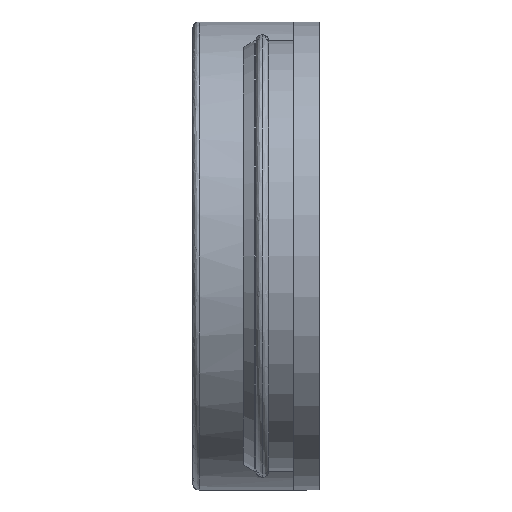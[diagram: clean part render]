
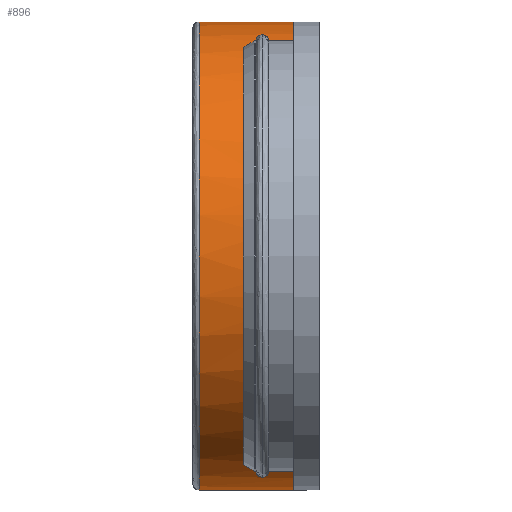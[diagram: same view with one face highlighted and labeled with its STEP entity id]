
A CAD part, left-side view. The second image highlights one B-rep face of the part: STEP entity #896.
In plain terms, the highlighted cylindrical face has radius 18.5 mm (diameter 37 mm), a partial arc.
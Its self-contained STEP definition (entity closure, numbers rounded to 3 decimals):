
#12 = ORIENTED_EDGE ( 'NONE', *, *, #2287, .T. ) ;
#48 = CARTESIAN_POINT ( 'NONE',  ( 54.125, 10., 0. ) ) ;
#105 = ORIENTED_EDGE ( 'NONE', *, *, #4804, .T. ) ;
#160 = CARTESIAN_POINT ( 'NONE',  ( 54.125, 9.5, 18.5 ) ) ;
#181 = DIRECTION ( 'NONE',  ( 0., 1., 0. ) ) ;
#256 = VECTOR ( 'NONE', #5048, 1000. ) ;
#354 = CARTESIAN_POINT ( 'NONE',  ( 54.125, 10., 18.5 ) ) ;
#361 = ORIENTED_EDGE ( 'NONE', *, *, #809, .T. ) ;
#362 = CIRCLE ( 'NONE', #3670, 18.5 ) ;
#376 = CARTESIAN_POINT ( 'NONE',  ( 54.125, 4.1, 0. ) ) ;
#417 = VERTEX_POINT ( 'NONE', #6317 ) ;
#464 = CIRCLE ( 'NONE', #6153, 18.5 ) ;
#495 = ORIENTED_EDGE ( 'NONE', *, *, #2912, .T. ) ;
#514 = DIRECTION ( 'NONE',  ( 0., -1., 0. ) ) ;
#719 = EDGE_CURVE ( 'NONE', #813, #3783, #2390, .T. ) ;
#728 = ORIENTED_EDGE ( 'NONE', *, *, #4326, .F. ) ;
#777 = AXIS2_PLACEMENT_3D ( 'NONE', #3139, #181, #3650 ) ;
#809 = EDGE_CURVE ( 'NONE', #3176, #4039, #2090, .T. ) ;
#813 = VERTEX_POINT ( 'NONE', #160 ) ;
#860 = FACE_OUTER_BOUND ( 'NONE', #3925, .T. ) ;
#862 = DIRECTION ( 'NONE',  ( 0., 0., -1. ) ) ;
#896 = ADVANCED_FACE ( 'NONE', ( #860 ), #4700, .T. ) ;
#965 = ORIENTED_EDGE ( 'NONE', *, *, #1774, .T. ) ;
#1067 = VERTEX_POINT ( 'NONE', #1915 ) ;
#1072 = LINE ( 'NONE', #3622, #2563 ) ;
#1142 = EDGE_CURVE ( 'NONE', #5980, #3457, #2405, .T. ) ;
#1336 = CARTESIAN_POINT ( 'NONE',  ( 35.708, 0.8, 1.75 ) ) ;
#1435 = VERTEX_POINT ( 'NONE', #1336 ) ;
#1495 = CARTESIAN_POINT ( 'NONE',  ( 35.708, 0.8, -1.75 ) ) ;
#1585 = DIRECTION ( 'NONE',  ( 0., 1., 0. ) ) ;
#1612 = DIRECTION ( 'NONE',  ( 0., -1., 0. ) ) ;
#1628 = CIRCLE ( 'NONE', #3259, 18.5 ) ;
#1774 = EDGE_CURVE ( 'NONE', #2014, #3457, #3421, .T. ) ;
#1832 = DIRECTION ( 'NONE',  ( 0., -1., 0. ) ) ;
#1915 = CARTESIAN_POINT ( 'NONE',  ( 35.708, 4.1, 1.75 ) ) ;
#1963 = CARTESIAN_POINT ( 'NONE',  ( 54.125, 0.8, 0. ) ) ;
#2014 = VERTEX_POINT ( 'NONE', #2429 ) ;
#2017 = CIRCLE ( 'NONE', #777, 18.5 ) ;
#2090 = LINE ( 'NONE', #4607, #3108 ) ;
#2163 = ORIENTED_EDGE ( 'NONE', *, *, #1142, .F. ) ;
#2287 = EDGE_CURVE ( 'NONE', #1435, #1067, #6245, .T. ) ;
#2355 = DIRECTION ( 'NONE',  ( 0., -1., 0. ) ) ;
#2390 = CIRCLE ( 'NONE', #5960, 18.5 ) ;
#2405 = CIRCLE ( 'NONE', #6370, 18.5 ) ;
#2429 = CARTESIAN_POINT ( 'NONE',  ( 36.633, 4.1, 6.023 ) ) ;
#2454 = DIRECTION ( 'NONE',  ( 0., 0., -1. ) ) ;
#2563 = VECTOR ( 'NONE', #5605, 1000. ) ;
#2566 = VERTEX_POINT ( 'NONE', #4315 ) ;
#2614 = ORIENTED_EDGE ( 'NONE', *, *, #6393, .F. ) ;
#2869 = LINE ( 'NONE', #4075, #256 ) ;
#2912 = EDGE_CURVE ( 'NONE', #417, #3176, #2017, .T. ) ;
#3048 = CARTESIAN_POINT ( 'NONE',  ( 54.125, 1., -18.5 ) ) ;
#3108 = VECTOR ( 'NONE', #4115, 1000. ) ;
#3139 = CARTESIAN_POINT ( 'NONE',  ( 54.125, 4.1, 0. ) ) ;
#3176 = VERTEX_POINT ( 'NONE', #3660 ) ;
#3224 = CARTESIAN_POINT ( 'NONE',  ( 54.125, 1., 18.5 ) ) ;
#3259 = AXIS2_PLACEMENT_3D ( 'NONE', #1963, #5463, #2454 ) ;
#3421 = LINE ( 'NONE', #6000, #4763 ) ;
#3457 = VERTEX_POINT ( 'NONE', #5966 ) ;
#3481 = CARTESIAN_POINT ( 'NONE',  ( 54.125, 1., 0. ) ) ;
#3490 = EDGE_CURVE ( 'NONE', #2566, #417, #2869, .T. ) ;
#3622 = CARTESIAN_POINT ( 'NONE',  ( 54.125, 10., -18.5 ) ) ;
#3650 = DIRECTION ( 'NONE',  ( 0., 0., -1. ) ) ;
#3660 = CARTESIAN_POINT ( 'NONE',  ( 35.708, 4.1, -1.75 ) ) ;
#3670 = AXIS2_PLACEMENT_3D ( 'NONE', #3481, #514, #4003 ) ;
#3773 = VECTOR ( 'NONE', #1585, 1000. ) ;
#3783 = VERTEX_POINT ( 'NONE', #5045 ) ;
#3863 = DIRECTION ( 'NONE',  ( 0., 1., 0. ) ) ;
#3925 = EDGE_LOOP ( 'NONE', ( #728, #4634, #3953, #2614, #5493, #495, #361, #105, #12, #5214, #965, #2163 ) ) ;
#3953 = ORIENTED_EDGE ( 'NONE', *, *, #5276, .T. ) ;
#4003 = DIRECTION ( 'NONE',  ( 0., 0., 1. ) ) ;
#4039 = VERTEX_POINT ( 'NONE', #1495 ) ;
#4075 = CARTESIAN_POINT ( 'NONE',  ( 36.633, 10., -6.023 ) ) ;
#4115 = DIRECTION ( 'NONE',  ( 0., -1., 0. ) ) ;
#4315 = CARTESIAN_POINT ( 'NONE',  ( 36.633, 1., -6.023 ) ) ;
#4326 = EDGE_CURVE ( 'NONE', #813, #5980, #5764, .T. ) ;
#4513 = DIRECTION ( 'NONE',  ( 0., -1., 0. ) ) ;
#4530 = DIRECTION ( 'NONE',  ( 0., -1., 0. ) ) ;
#4607 = CARTESIAN_POINT ( 'NONE',  ( 35.708, 10., -1.75 ) ) ;
#4612 = CARTESIAN_POINT ( 'NONE',  ( 54.125, 9.5, 0. ) ) ;
#4634 = ORIENTED_EDGE ( 'NONE', *, *, #719, .T. ) ;
#4700 = CYLINDRICAL_SURFACE ( 'NONE', #5183, 18.5 ) ;
#4763 = VECTOR ( 'NONE', #4530, 1000. ) ;
#4804 = EDGE_CURVE ( 'NONE', #4039, #1435, #1628, .T. ) ;
#5005 = DIRECTION ( 'NONE',  ( 0., 0., -1. ) ) ;
#5045 = CARTESIAN_POINT ( 'NONE',  ( 54.125, 9.5, -18.5 ) ) ;
#5048 = DIRECTION ( 'NONE',  ( 0., 1., 0. ) ) ;
#5102 = DIRECTION ( 'NONE',  ( 0., 0., -1. ) ) ;
#5183 = AXIS2_PLACEMENT_3D ( 'NONE', #48, #4513, #5005 ) ;
#5214 = ORIENTED_EDGE ( 'NONE', *, *, #5411, .T. ) ;
#5276 = EDGE_CURVE ( 'NONE', #3783, #5709, #1072, .T. ) ;
#5353 = CARTESIAN_POINT ( 'NONE',  ( 54.125, 1., 0. ) ) ;
#5411 = EDGE_CURVE ( 'NONE', #1067, #2014, #464, .T. ) ;
#5463 = DIRECTION ( 'NONE',  ( 0., 1., 0. ) ) ;
#5493 = ORIENTED_EDGE ( 'NONE', *, *, #3490, .T. ) ;
#5587 = CARTESIAN_POINT ( 'NONE',  ( 35.708, 10., 1.75 ) ) ;
#5600 = VECTOR ( 'NONE', #1832, 1000. ) ;
#5605 = DIRECTION ( 'NONE',  ( 0., -1., 0. ) ) ;
#5709 = VERTEX_POINT ( 'NONE', #3048 ) ;
#5764 = LINE ( 'NONE', #354, #5600 ) ;
#5844 = DIRECTION ( 'NONE',  ( 0., 0., 1. ) ) ;
#5960 = AXIS2_PLACEMENT_3D ( 'NONE', #4612, #1612, #5102 ) ;
#5966 = CARTESIAN_POINT ( 'NONE',  ( 36.633, 1., 6.023 ) ) ;
#5980 = VERTEX_POINT ( 'NONE', #3224 ) ;
#6000 = CARTESIAN_POINT ( 'NONE',  ( 36.633, 10., 6.023 ) ) ;
#6153 = AXIS2_PLACEMENT_3D ( 'NONE', #376, #3863, #862 ) ;
#6245 = LINE ( 'NONE', #5587, #3773 ) ;
#6317 = CARTESIAN_POINT ( 'NONE',  ( 36.633, 4.1, -6.023 ) ) ;
#6370 = AXIS2_PLACEMENT_3D ( 'NONE', #5353, #2355, #5844 ) ;
#6393 = EDGE_CURVE ( 'NONE', #2566, #5709, #362, .T. ) ;
